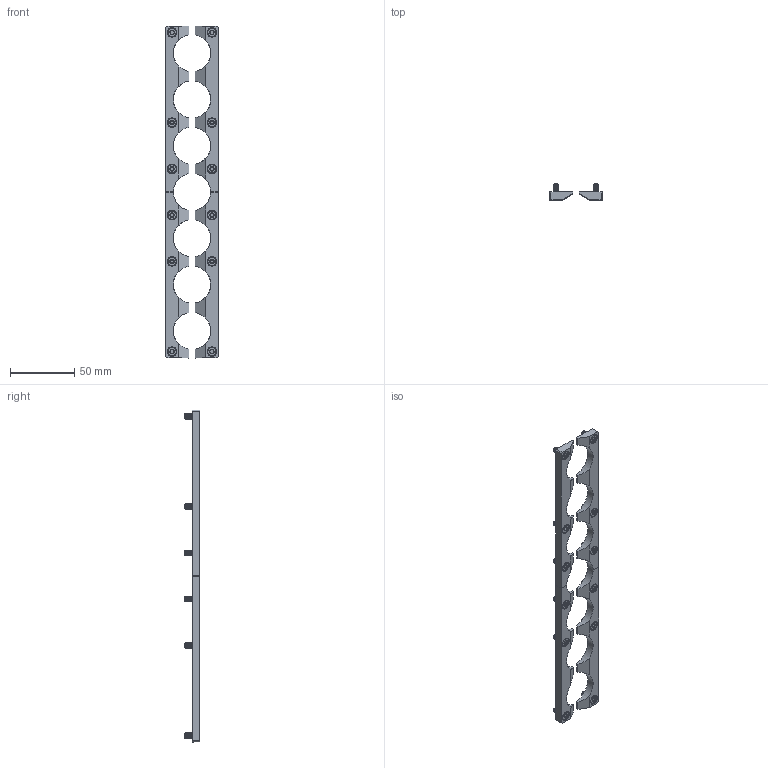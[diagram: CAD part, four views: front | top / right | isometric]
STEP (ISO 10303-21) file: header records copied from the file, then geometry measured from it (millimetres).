
FILE_DESCRIPTION (( 'STEP AP214' ), '1' );
FILE_NAME ('8800739_p.STEP', '2019-06-07T18:13:52', ( '' ), ( '' ), 'SwSTEP 2.0', 'SolidWorks 2018', '' );
FILE_SCHEMA (( 'AUTOMOTIVE_DESIGN' ));
Length unit declared in the file: millimetre
Products named in the file (1): 8800739_p
Bounding box: 41 x 12.3 x 258.2 mm (x, y, z)
Surface area: 21358.9 mm2 (no closed solid volume)
Topology: 0 solids, 28 shells, 864 faces, 2340 edges, 1508 vertices
Faces by surface type: cylinder 544, plane 152, cone 144, bspline 24
Entity records: 49362 total; most frequent: CARTESIAN_POINT 21333, ORIENTED_EDGE 4496, DIRECTION 3222, EDGE_CURVE 2340, VERTEX_POINT 1508, AXIS2_PLACEMENT_3D 1185, EDGE_LOOP 900, UNCERTAINTY_MEASURE_WITH_UNIT 866
